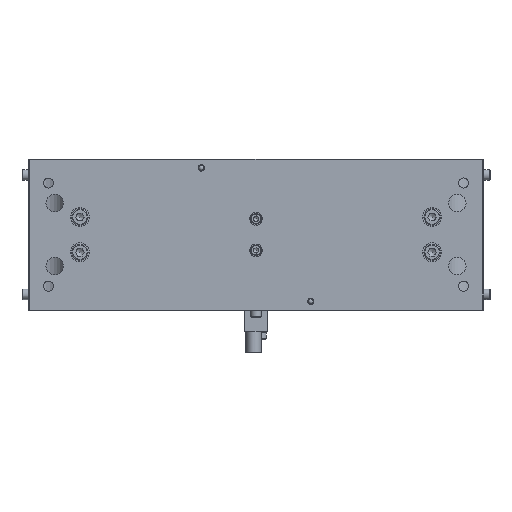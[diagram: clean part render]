
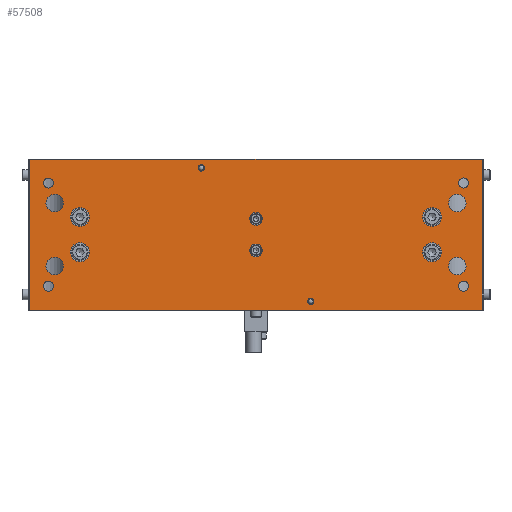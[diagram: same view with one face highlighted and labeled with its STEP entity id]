
A CAD part, front view. The second image highlights one B-rep face of the part: STEP entity #57508.
In plain terms, the highlighted planar face has unit normal (0, -1, 0).
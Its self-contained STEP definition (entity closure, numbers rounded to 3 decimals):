
#48282=CARTESIAN_POINT('',(-180.,-218.,-60.));
#48283=VERTEX_POINT('',#48282);
#48290=CARTESIAN_POINT('',(-180.,-218.,60.));
#48291=VERTEX_POINT('',#48290);
#48292=CARTESIAN_POINT('',(-180.,-218.,60.));
#48293=DIRECTION('',(0.0,0.0,-1.0));
#48294=VECTOR('',#48293,120.);
#48295=LINE('',#48292,#48294);
#48296=EDGE_CURVE('',#48291,#48283,#48295,.T.);
#48614=CARTESIAN_POINT('',(147.5,-218.,-14.));
#48615=VERTEX_POINT('',#48614);
#48616=CARTESIAN_POINT('',(140.,-218.,-14.));
#48617=DIRECTION('',(0.0,1.0,0.0));
#48618=DIRECTION('',(1.0,0.0,0.0));
#48619=AXIS2_PLACEMENT_3D('',#48616,#48617,#48618);
#48620=CIRCLE('',#48619,7.5);
#48621=EDGE_CURVE('',#48615,#48615,#48620,.T.);
#48682=CARTESIAN_POINT('',(147.5,-218.,14.));
#48683=VERTEX_POINT('',#48682);
#48684=CARTESIAN_POINT('',(140.,-218.,14.));
#48685=DIRECTION('',(0.0,1.0,0.0));
#48686=DIRECTION('',(1.0,0.0,0.0));
#48687=AXIS2_PLACEMENT_3D('',#48684,#48685,#48686);
#48688=CIRCLE('',#48687,7.5);
#48689=EDGE_CURVE('',#48683,#48683,#48688,.T.);
#48750=CARTESIAN_POINT('',(-132.5,-218.,-14.));
#48751=VERTEX_POINT('',#48750);
#48752=CARTESIAN_POINT('',(-140.,-218.,-14.));
#48753=DIRECTION('',(0.0,1.0,0.0));
#48754=DIRECTION('',(1.0,0.0,0.0));
#48755=AXIS2_PLACEMENT_3D('',#48752,#48753,#48754);
#48756=CIRCLE('',#48755,7.5);
#48757=EDGE_CURVE('',#48751,#48751,#48756,.T.);
#48818=CARTESIAN_POINT('',(-132.5,-218.,14.));
#48819=VERTEX_POINT('',#48818);
#48820=CARTESIAN_POINT('',(-140.0,-218.,14.));
#48821=DIRECTION('',(0.0,1.0,0.0));
#48822=DIRECTION('',(1.0,0.0,0.0));
#48823=AXIS2_PLACEMENT_3D('',#48820,#48821,#48822);
#48824=CIRCLE('',#48823,7.5);
#48825=EDGE_CURVE('',#48819,#48819,#48824,.T.);
#48861=CARTESIAN_POINT('',(169.,-218.,-41.));
#48862=VERTEX_POINT('',#48861);
#48863=CARTESIAN_POINT('',(165.,-218.,-41.));
#48864=DIRECTION('',(0.0,1.0,0.0));
#48865=DIRECTION('',(1.0,0.0,0.0));
#48866=AXIS2_PLACEMENT_3D('',#48863,#48864,#48865);
#48867=CIRCLE('',#48866,4.0);
#48868=EDGE_CURVE('',#48862,#48862,#48867,.T.);
#48881=CARTESIAN_POINT('',(169.,-218.,41.));
#48882=VERTEX_POINT('',#48881);
#48883=CARTESIAN_POINT('',(165.0,-218.,41.));
#48884=DIRECTION('',(0.0,1.0,0.0));
#48885=DIRECTION('',(1.0,0.0,0.0));
#48886=AXIS2_PLACEMENT_3D('',#48883,#48884,#48885);
#48887=CIRCLE('',#48886,4.0);
#48888=EDGE_CURVE('',#48882,#48882,#48887,.T.);
#48901=CARTESIAN_POINT('',(-161.,-218.,-41.));
#48902=VERTEX_POINT('',#48901);
#48903=CARTESIAN_POINT('',(-165.,-218.,-41.));
#48904=DIRECTION('',(0.0,1.0,0.0));
#48905=DIRECTION('',(1.0,0.0,0.0));
#48906=AXIS2_PLACEMENT_3D('',#48903,#48904,#48905);
#48907=CIRCLE('',#48906,4.0);
#48908=EDGE_CURVE('',#48902,#48902,#48907,.T.);
#48921=CARTESIAN_POINT('',(-161.0,-218.,41.));
#48922=VERTEX_POINT('',#48921);
#48923=CARTESIAN_POINT('',(-165.0,-218.,41.));
#48924=DIRECTION('',(0.0,1.0,0.0));
#48925=DIRECTION('',(1.0,0.0,0.0));
#48926=AXIS2_PLACEMENT_3D('',#48923,#48924,#48925);
#48927=CIRCLE('',#48926,4.0);
#48928=EDGE_CURVE('',#48922,#48922,#48927,.T.);
#48941=CARTESIAN_POINT('',(167.0,-218.,25.));
#48942=VERTEX_POINT('',#48941);
#48943=CARTESIAN_POINT('',(160.0,-218.,25.));
#48944=DIRECTION('',(0.0,1.0,0.0));
#48945=DIRECTION('',(1.0,0.0,0.0));
#48946=AXIS2_PLACEMENT_3D('',#48943,#48944,#48945);
#48947=CIRCLE('',#48946,7.);
#48948=EDGE_CURVE('',#48942,#48942,#48947,.T.);
#48961=CARTESIAN_POINT('',(167.,-218.,-25.));
#48962=VERTEX_POINT('',#48961);
#48963=CARTESIAN_POINT('',(160.,-218.,-25.));
#48964=DIRECTION('',(0.0,1.0,0.0));
#48965=DIRECTION('',(1.0,0.0,0.0));
#48966=AXIS2_PLACEMENT_3D('',#48963,#48964,#48965);
#48967=CIRCLE('',#48966,7.);
#48968=EDGE_CURVE('',#48962,#48962,#48967,.T.);
#48981=CARTESIAN_POINT('',(-153.,-218.,-25.));
#48982=VERTEX_POINT('',#48981);
#48983=CARTESIAN_POINT('',(-160.,-218.,-25.));
#48984=DIRECTION('',(0.0,1.0,0.0));
#48985=DIRECTION('',(1.0,0.0,0.0));
#48986=AXIS2_PLACEMENT_3D('',#48983,#48984,#48985);
#48987=CIRCLE('',#48986,7.);
#48988=EDGE_CURVE('',#48982,#48982,#48987,.T.);
#49001=CARTESIAN_POINT('',(-153.0,-218.,25.));
#49002=VERTEX_POINT('',#49001);
#49003=CARTESIAN_POINT('',(-160.0,-218.,25.));
#49004=DIRECTION('',(0.0,1.0,0.0));
#49005=DIRECTION('',(1.0,0.0,0.0));
#49006=AXIS2_PLACEMENT_3D('',#49003,#49004,#49005);
#49007=CIRCLE('',#49006,7.);
#49008=EDGE_CURVE('',#49002,#49002,#49007,.T.);
#49046=CARTESIAN_POINT('',(5.,-218.,-12.5));
#49047=VERTEX_POINT('',#49046);
#49048=CARTESIAN_POINT('',(0.,-218.,-12.5));
#49049=DIRECTION('',(0.0,1.0,0.0));
#49050=DIRECTION('',(1.0,0.0,0.0));
#49051=AXIS2_PLACEMENT_3D('',#49048,#49049,#49050);
#49052=CIRCLE('',#49051,5.0);
#49053=EDGE_CURVE('',#49047,#49047,#49052,.T.);
#49114=CARTESIAN_POINT('',(5.,-218.,12.5));
#49115=VERTEX_POINT('',#49114);
#49116=CARTESIAN_POINT('',(0.,-218.,12.5));
#49117=DIRECTION('',(0.0,1.0,0.0));
#49118=DIRECTION('',(1.0,0.0,0.0));
#49119=AXIS2_PLACEMENT_3D('',#49116,#49117,#49118);
#49120=CIRCLE('',#49119,5.0);
#49121=EDGE_CURVE('',#49115,#49115,#49120,.T.);
#49224=CARTESIAN_POINT('',(180.,-218.,60.));
#49225=VERTEX_POINT('',#49224);
#49232=CARTESIAN_POINT('',(180.,-218.,-60.));
#49233=VERTEX_POINT('',#49232);
#49234=CARTESIAN_POINT('',(180.,-218.,-60.));
#49235=DIRECTION('',(0.0,0.0,1.0));
#49236=VECTOR('',#49235,120.);
#49237=LINE('',#49234,#49236);
#49238=EDGE_CURVE('',#49233,#49225,#49237,.T.);
#53142=CARTESIAN_POINT('',(-180.,-218.,60.));
#53143=DIRECTION('',(1.0,0.0,0.0));
#53144=VECTOR('',#53143,360.0);
#53145=LINE('',#53142,#53144);
#53146=EDGE_CURVE('',#48291,#49225,#53145,.T.);
#54251=CARTESIAN_POINT('',(-46.,-218.,53.));
#54252=VERTEX_POINT('',#54251);
#54253=CARTESIAN_POINT('',(-43.5,-218.,53.));
#54254=DIRECTION('',(0.0,1.0,0.0));
#54255=DIRECTION('',(-1.0,0.0,0.0));
#54256=AXIS2_PLACEMENT_3D('',#54253,#54254,#54255);
#54257=CIRCLE('',#54256,2.5);
#54258=EDGE_CURVE('',#54252,#54252,#54257,.T.);
#56172=CARTESIAN_POINT('',(180.,-218.,-60.0));
#56173=DIRECTION('',(-1.0,0.0,0.0));
#56174=VECTOR('',#56173,360.0);
#56175=LINE('',#56172,#56174);
#56176=EDGE_CURVE('',#49233,#48283,#56175,.T.);
#57324=CARTESIAN_POINT('',(46.,-218.,-53.));
#57325=VERTEX_POINT('',#57324);
#57326=CARTESIAN_POINT('',(43.5,-218.,-53.));
#57327=DIRECTION('',(0.0,1.0,0.0));
#57328=DIRECTION('',(1.0,0.0,0.0));
#57329=AXIS2_PLACEMENT_3D('',#57326,#57327,#57328);
#57330=CIRCLE('',#57329,2.5);
#57331=EDGE_CURVE('',#57325,#57325,#57330,.T.);
#57449=CARTESIAN_POINT('',(180.,-218.,-60.0));
#57450=DIRECTION('',(0.0,-1.0,0.0));
#57451=DIRECTION('',(0.0,0.0,-1.0));
#57452=AXIS2_PLACEMENT_3D('',#57449,#57450,#57451);
#57453=PLANE('',#57452);
#57454=ORIENTED_EDGE('',*,*,#56176,.F.);
#57455=ORIENTED_EDGE('',*,*,#49238,.T.);
#57456=ORIENTED_EDGE('',*,*,#53146,.F.);
#57457=ORIENTED_EDGE('',*,*,#48296,.T.);
#57458=EDGE_LOOP('',(#57454,#57455,#57456,#57457));
#57459=FACE_OUTER_BOUND('',#57458,.T.);
#57460=ORIENTED_EDGE('',*,*,#54258,.T.);
#57461=EDGE_LOOP('',(#57460));
#57462=FACE_BOUND('',#57461,.T.);
#57463=ORIENTED_EDGE('',*,*,#48621,.T.);
#57464=EDGE_LOOP('',(#57463));
#57465=FACE_BOUND('',#57464,.T.);
#57466=ORIENTED_EDGE('',*,*,#48689,.T.);
#57467=EDGE_LOOP('',(#57466));
#57468=FACE_BOUND('',#57467,.T.);
#57469=ORIENTED_EDGE('',*,*,#48757,.T.);
#57470=EDGE_LOOP('',(#57469));
#57471=FACE_BOUND('',#57470,.T.);
#57472=ORIENTED_EDGE('',*,*,#48825,.T.);
#57473=EDGE_LOOP('',(#57472));
#57474=FACE_BOUND('',#57473,.T.);
#57475=ORIENTED_EDGE('',*,*,#48868,.T.);
#57476=EDGE_LOOP('',(#57475));
#57477=FACE_BOUND('',#57476,.T.);
#57478=ORIENTED_EDGE('',*,*,#48888,.T.);
#57479=EDGE_LOOP('',(#57478));
#57480=FACE_BOUND('',#57479,.T.);
#57481=ORIENTED_EDGE('',*,*,#48908,.T.);
#57482=EDGE_LOOP('',(#57481));
#57483=FACE_BOUND('',#57482,.T.);
#57484=ORIENTED_EDGE('',*,*,#48928,.T.);
#57485=EDGE_LOOP('',(#57484));
#57486=FACE_BOUND('',#57485,.T.);
#57487=ORIENTED_EDGE('',*,*,#48948,.T.);
#57488=EDGE_LOOP('',(#57487));
#57489=FACE_BOUND('',#57488,.T.);
#57490=ORIENTED_EDGE('',*,*,#48968,.T.);
#57491=EDGE_LOOP('',(#57490));
#57492=FACE_BOUND('',#57491,.T.);
#57493=ORIENTED_EDGE('',*,*,#48988,.T.);
#57494=EDGE_LOOP('',(#57493));
#57495=FACE_BOUND('',#57494,.T.);
#57496=ORIENTED_EDGE('',*,*,#49008,.T.);
#57497=EDGE_LOOP('',(#57496));
#57498=FACE_BOUND('',#57497,.T.);
#57499=ORIENTED_EDGE('',*,*,#49053,.T.);
#57500=EDGE_LOOP('',(#57499));
#57501=FACE_BOUND('',#57500,.T.);
#57502=ORIENTED_EDGE('',*,*,#49121,.T.);
#57503=EDGE_LOOP('',(#57502));
#57504=FACE_BOUND('',#57503,.T.);
#57505=ORIENTED_EDGE('',*,*,#57331,.T.);
#57506=EDGE_LOOP('',(#57505));
#57507=FACE_BOUND('',#57506,.T.);
#57508=ADVANCED_FACE('',(#57459,#57462,#57465,#57468,#57471,#57474,#57477,#57480,#57483,#57486,#57489,#57492,#57495,#57498,#57501,#57504,#57507),#57453,.T.);
